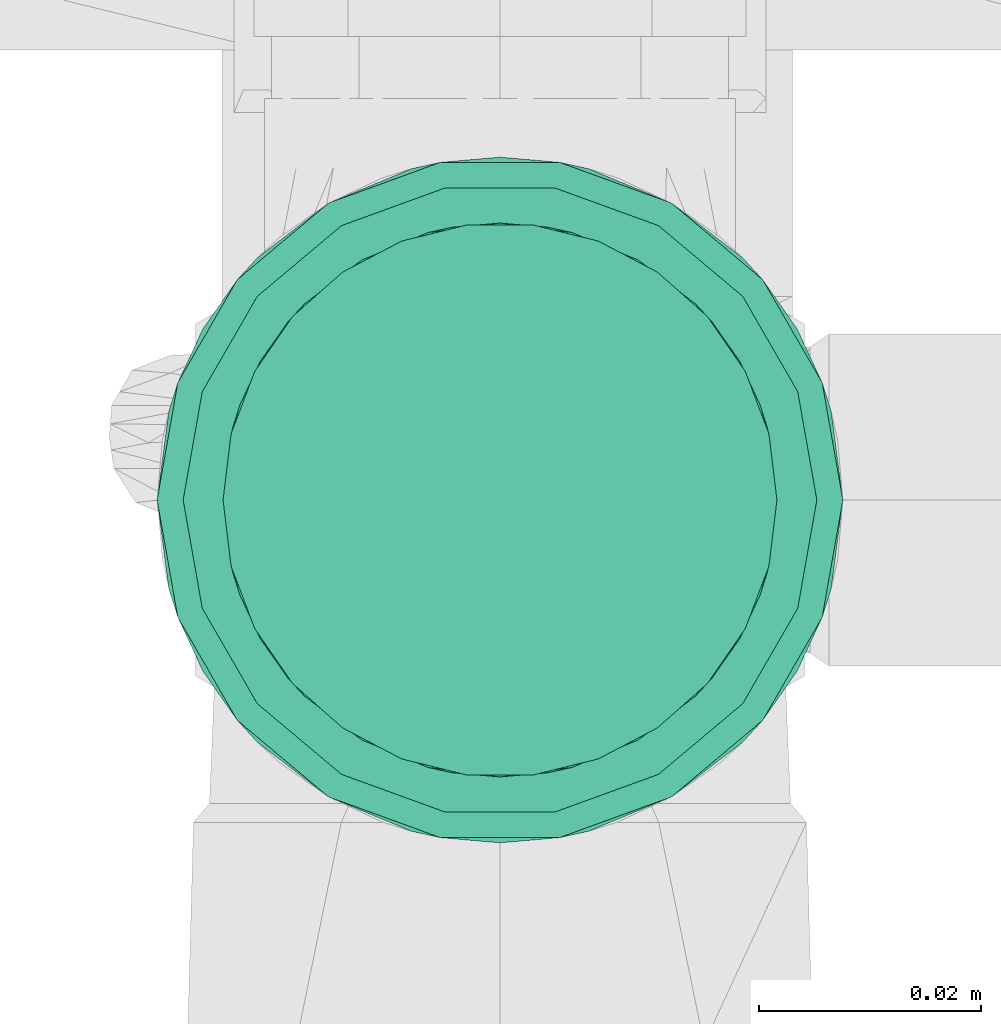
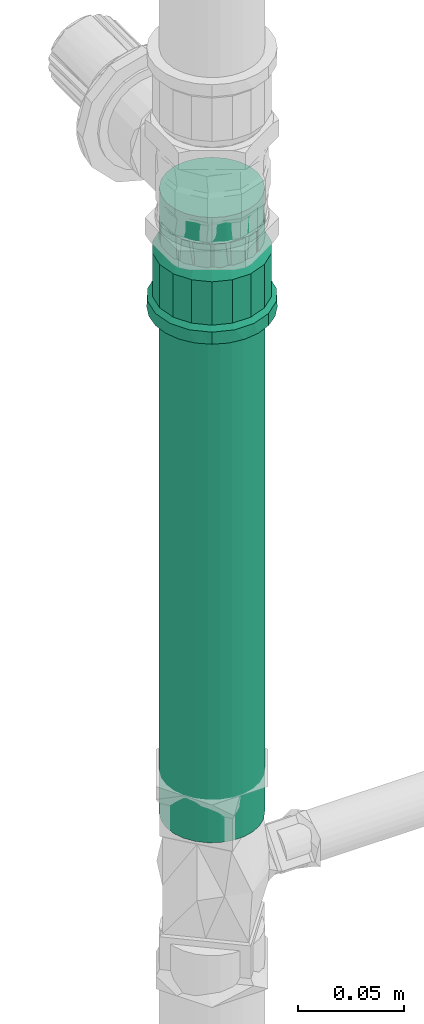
# One storey, part 240 of 589: 1 flow fitting, 1 flow segment.
"""IFC2X3 building model written with IfcOpenShell, lengths in millimetres."""

from ifc_helpers import new_model, entity, si_unit, converted_unit, derived_unit, direction, frame, frame_2d, origin, place, context, subcontext, project, spatial, circle, extrude, faceted_brep, source, transform, mapped, material, type_object, type_shapes, element, save


model = new_model("IFC2X3")

# Units and contexts
model_context = context("Model", 3, precision=0.01, world=origin(), true_north=direction((6.123031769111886e-17, 1.0)))
body_context = subcontext(model_context, "Body", "Model", "MODEL_VIEW")
ifc_project = project(units=[si_unit("LENGTHUNIT", "METRE", prefix="MILLI"), si_unit("AREAUNIT", "SQUARE_METRE"), si_unit("VOLUMEUNIT", "CUBIC_METRE"), converted_unit("PLANEANGLEUNIT", "DEGREE", entity("IfcRatioMeasure", 0.017453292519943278), si_unit("PLANEANGLEUNIT", "RADIAN"), dimensions=[0, 0, 0, 0, 0, 0, 0]), si_unit("MASSUNIT", "GRAM", prefix="KILO"), derived_unit("MASSDENSITYUNIT", [(si_unit("MASSUNIT", "GRAM", prefix="KILO"), 1), (si_unit("LENGTHUNIT", "METRE"), -3)]), derived_unit("IONCONCENTRATIONUNIT", [(si_unit("MASSUNIT", "GRAM", prefix="KILO"), 1), (si_unit("LENGTHUNIT", "METRE"), -3)]), derived_unit("MOMENTOFINERTIAUNIT", [(si_unit("LENGTHUNIT", "METRE"), 4)]), si_unit("TIMEUNIT", "SECOND"), si_unit("FREQUENCYUNIT", "HERTZ"), si_unit("THERMODYNAMICTEMPERATUREUNIT", "DEGREE_CELSIUS"), derived_unit("THERMALTRANSMITTANCEUNIT", [(si_unit("MASSUNIT", "GRAM", prefix="KILO"), 1), (si_unit("THERMODYNAMICTEMPERATUREUNIT", "KELVIN"), -1), (si_unit("TIMEUNIT", "SECOND"), -3)]), derived_unit("THERMALCONDUCTANCEUNIT", [(si_unit("MASSUNIT", "GRAM", prefix="KILO"), 1), (si_unit("THERMODYNAMICTEMPERATUREUNIT", "KELVIN"), -1), (si_unit("TIMEUNIT", "SECOND"), -3), (si_unit("LENGTHUNIT", "METRE"), 1)]), derived_unit("VOLUMETRICFLOWRATEUNIT", [(si_unit("LENGTHUNIT", "METRE"), 3), (si_unit("TIMEUNIT", "SECOND"), -1)]), derived_unit("MASSFLOWRATEUNIT", [(si_unit("MASSUNIT", "GRAM", prefix="KILO"), 1), (si_unit("TIMEUNIT", "SECOND"), -1)]), derived_unit("ROTATIONALFREQUENCYUNIT", [(si_unit("TIMEUNIT", "SECOND"), -1)]), si_unit("ELECTRICCURRENTUNIT", "AMPERE"), si_unit("ELECTRICVOLTAGEUNIT", "VOLT"), si_unit("POWERUNIT", "WATT"), si_unit("FORCEUNIT", "NEWTON", prefix="KILO"), si_unit("ILLUMINANCEUNIT", "LUX"), si_unit("LUMINOUSFLUXUNIT", "LUMEN"), si_unit("LUMINOUSINTENSITYUNIT", "CANDELA"), derived_unit("USERDEFINED", [(si_unit("MASSUNIT", "GRAM", prefix="KILO"), -1), (si_unit("LENGTHUNIT", "METRE"), -2), (si_unit("TIMEUNIT", "SECOND"), 3), (si_unit("LUMINOUSFLUXUNIT", "LUMEN"), 1)]), derived_unit("USERDEFINED", [(si_unit("MASSUNIT", "GRAM", prefix="KILO"), 1), (si_unit("TIMEUNIT", "SECOND"), -3), (si_unit("LENGTHUNIT", "METRE"), 3), (si_unit("ELECTRICCURRENTUNIT", "AMPERE"), -2)]), derived_unit("SOUNDPOWERUNIT", [(si_unit("MASSUNIT", "GRAM", prefix="KILO"), 1), (si_unit("TIMEUNIT", "SECOND"), -3), (si_unit("LENGTHUNIT", "METRE"), 2)]), derived_unit("SOUNDPRESSUREUNIT", [(si_unit("MASSUNIT", "GRAM", prefix="KILO"), 1), (si_unit("LENGTHUNIT", "METRE"), -1), (si_unit("TIMEUNIT", "SECOND"), -2)]), derived_unit("LINEARVELOCITYUNIT", [(si_unit("LENGTHUNIT", "METRE"), 1), (si_unit("TIMEUNIT", "SECOND"), -1)]), si_unit("PRESSUREUNIT", "PASCAL"), derived_unit("USERDEFINED", [(si_unit("MASSUNIT", "GRAM", prefix="KILO"), 1), (si_unit("LENGTHUNIT", "METRE"), -2), (si_unit("TIMEUNIT", "SECOND"), -2)]), derived_unit("LINEARFORCEUNIT", [(si_unit("MASSUNIT", "GRAM", prefix="KILO"), 1), (si_unit("TIMEUNIT", "SECOND"), -2)]), derived_unit("PLANARFORCEUNIT", [(si_unit("MASSUNIT", "GRAM", prefix="KILO"), 1), (si_unit("LENGTHUNIT", "METRE"), -1), (si_unit("TIMEUNIT", "SECOND"), -2)]), derived_unit("SPECIFICHEATCAPACITYUNIT", [(si_unit("THERMODYNAMICTEMPERATUREUNIT", "KELVIN"), -1), (si_unit("LENGTHUNIT", "METRE"), 2), (si_unit("TIMEUNIT", "SECOND"), -2)]), derived_unit("HEATINGVALUEUNIT", [(si_unit("LENGTHUNIT", "METRE"), 2), (si_unit("TIMEUNIT", "SECOND"), -2)]), derived_unit("VAPORPERMEABILITYUNIT", [(si_unit("LENGTHUNIT", "METRE"), -1), (si_unit("TIMEUNIT", "SECOND"), 1)]), derived_unit("DYNAMICVISCOSITYUNIT", [(si_unit("MASSUNIT", "GRAM", prefix="KILO"), 1), (si_unit("TIMEUNIT", "SECOND"), -1), (si_unit("LENGTHUNIT", "METRE"), -1)]), derived_unit("THERMALEXPANSIONCOEFFICIENTUNIT", [(si_unit("THERMODYNAMICTEMPERATUREUNIT", "KELVIN"), -1)]), derived_unit("MODULUSOFELASTICITYUNIT", [(si_unit("MASSUNIT", "GRAM", prefix="KILO"), 1), (si_unit("LENGTHUNIT", "METRE"), -1), (si_unit("TIMEUNIT", "SECOND"), -2)]), derived_unit("ISOTHERMALMOISTURECAPACITYUNIT", [(si_unit("LENGTHUNIT", "METRE"), 3), (si_unit("MASSUNIT", "GRAM", prefix="KILO"), -1)]), derived_unit("MOISTUREDIFFUSIVITYUNIT", [(si_unit("TIMEUNIT", "SECOND"), -1), (si_unit("LENGTHUNIT", "METRE"), 2)])], contexts=[model_context])

# Site, building, storey
site_placement = place(None, origin())
site = spatial("IfcSite", under=ifc_project, at=site_placement, Name="Default", CompositionType="ELEMENT")
building_placement = place(site_placement, origin())
building = spatial("IfcBuilding", under=site, at=building_placement, CompositionType="ELEMENT")
storey_placement = place(building_placement, frame((0.0, 0.0, 100.0)))
storey = spatial("IfcBuildingStorey", under=building, at=storey_placement, Name="TÉRREO", CompositionType="ELEMENT", Elevation=100.0)

# Flow segment
pipe_segment_type = type_object("IfcPipeSegmentType", Name="Tipos de tubos:PVC Marrom Soldável", PredefinedType="NOTDEFINED")
flow_segment_placement = place(storey_placement, origin())
element("IfcFlowSegment", 1, at=flow_segment_placement, inside=storey, type_object=pipe_segment_type, Name="Tipos de tubos:PVC Marrom Soldável", ObjectType="Tipos de tubos:PVC Marrom Soldável", context=body_context, shape_type="SweptSolid", body=[
    extrude(circle(Radius=25.0, at=frame_2d((6.767919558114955e-14, 0.0), x_axis=(1.0, 0.0))), frame((-87.78535366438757, 3119.2147625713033, 1832.6), z_axis=(0.0, 0.0, 1.0), x_axis=(-1.0, 0.0, 0.0)), (0.0, 0.0, 1.0), 345.90000000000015),
])

# Flow fitting
ifc_material = material(Name="PVC Marrom")
pipe_fitting_type = type_object("IfcPipeFittingType", Name="PVC Marrom Soldável_Adaptador Curto com Bolsa e Rosca Aninhado_Rodrigo MEP:Adaptador", PredefinedType="NOTDEFINED", material=ifc_material)
shared_shape = source(origin(), body_context, "Body", "Brep", [
    faceted_brep([(0.0, -15.475000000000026, -26.803486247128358), (0.0, -21.884954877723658, -21.88495487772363), (0.0, -12.499999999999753, -21.65063509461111), (0.0, -6.470476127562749, -24.14814565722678), (0.0, -8.010449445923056, -29.895404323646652), (0.0, -17.677669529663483, -17.6776695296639), (0.0, -26.803486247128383, -15.474999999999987), (0.0, -21.650635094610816, -12.500000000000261), (0.0, -24.148145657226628, -6.470476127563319), (0.0, -29.895404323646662, -8.01044944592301), (0.0, -25.0, 0.0), (0.0, -30.95, 0.0), (0.0, -24.14814565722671, 6.470476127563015), (0.0, -29.895404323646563, 8.010449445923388), (0.0, -21.65063509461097, 12.499999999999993), (0.0, -26.80348624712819, 15.475000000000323), (0.0, -17.6776695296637, 17.677669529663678), (0.0, -21.884954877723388, 21.884954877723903), (0.0, -12.500000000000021, 21.65063509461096), (0.0, -15.474999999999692, 26.803486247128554), (0.0, -6.4704761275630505, 24.1481456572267), (0.0, -8.010449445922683, 29.89540432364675), (0.0, 0.0, 25.0), (0.0, 0.0, 30.95), (0.0, 6.4704761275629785, 24.14814565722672), (0.0, 8.010449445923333, 29.895404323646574), (0.0, 12.49999999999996, 21.650635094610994), (0.0, 15.475000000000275, 26.803486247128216), (0.0, 17.677669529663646, 17.67766952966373), (0.0, 21.884954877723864, 21.884954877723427), (0.0, 21.65063509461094, 12.500000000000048), (0.0, 26.803486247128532, 15.474999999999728), (0.0, 29.89540432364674, 8.010449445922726), (0.0, 24.14814565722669, 6.4704761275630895), (0.0, 30.95, 0.0), (0.0, 25.0, 0.0), (0.0, 29.895404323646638, -8.010449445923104), (0.0, 24.148145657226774, -6.470476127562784), (0.0, 26.803486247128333, -15.475000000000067), (0.0, 21.6506350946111, -12.499999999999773), (0.0, 21.884954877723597, -21.884954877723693), (0.0, 17.677669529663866, -17.67766952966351), (0.0, 15.474999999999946, -26.803486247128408), (0.0, 12.500000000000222, -21.650635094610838), (0.0, 8.010449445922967, -29.895404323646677), (0.0, 6.470476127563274, -24.148145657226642), (0.0, 0.0, -30.95), (0.0, 0.0, -25.0), (7.0, 29.083191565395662, 10.586334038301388), (7.0, 29.880651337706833, 6.064083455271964), (7.0, 30.016595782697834, 5.29316701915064), (7.0, 19.590362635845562, 23.350189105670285), (7.0, 23.70796650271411, 19.895598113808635), (7.0, 26.395579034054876, 15.24096607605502), (7.0, 10.421885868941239, 28.6425895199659), (7.0, 5.3710129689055, 30.480398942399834), (7.0, 30.95, 0.0), (7.0, 15.472758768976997, 26.804780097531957), (7.0, -15.479482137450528, 26.80089798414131), (7.0, -10.42907040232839, 28.639974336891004), (7.0, -5.37865866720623, 30.479050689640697), (7.0, -23.712956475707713, 19.889650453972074), (7.0, -19.596219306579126, 23.345274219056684), (7.0, -30.95, 0.0), (7.0, -29.08584618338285, 10.57903832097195), (7.0, -26.39940132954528, 15.234344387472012), (7.0, -0.0038228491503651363, 30.47972481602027), (7.0, -29.08584618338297, -10.579038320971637), (7.0, -19.596219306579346, -23.3452742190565), (7.0, -23.71295647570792, -19.88965045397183), (7.0, -26.39940132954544, -15.234344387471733), (7.0, -10.429070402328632, -28.639974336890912), (7.0, -5.378658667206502, -30.47905068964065), (7.0, -15.47948213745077, -26.800897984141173), (7.0, 30.0165957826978, -5.2931670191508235), (7.0, 15.472758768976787, -26.804780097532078), (7.0, 10.421885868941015, -28.642589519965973), (7.0, 5.3710129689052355, -30.480398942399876), (7.0, 23.707966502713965, -19.895598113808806), (7.0, 19.590362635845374, -23.350189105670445), (7.0, 29.88065131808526, -6.064083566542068), (7.0, 29.083191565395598, -10.58633403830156), (7.0, 26.395579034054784, -15.240966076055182), (7.0, -0.003822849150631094, -30.479724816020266), (34.4499999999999, 26.875116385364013, 9.782030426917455), (9.400000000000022, 27.737468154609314, 4.8912625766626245), (9.400000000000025, 26.87493630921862, 9.782525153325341), (9.400000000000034, 14.297928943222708, 24.769522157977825), (34.4499999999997, 14.299296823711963, 24.768732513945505), (9.40000000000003, 18.102887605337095, 21.577234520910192), (34.4499999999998, 21.908523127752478, 18.384140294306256), (34.44999999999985, 24.391819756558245, 14.083085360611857), (9.400000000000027, 24.391391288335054, 14.083736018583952), (9.400000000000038, 9.63056335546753, 26.467788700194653), (9.400000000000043, 4.963197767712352, 28.16605524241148), (34.44999999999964, 4.965271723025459, 28.165689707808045), (9.400000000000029, 21.907846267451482, 18.384946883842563), (34.44999999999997, 27.796398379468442, 4.557325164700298), (9.40000000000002, 28.600000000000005, 0.0), (34.44999999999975, 18.103909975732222, 21.57643640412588), (34.44999999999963, -0.0011994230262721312, 28.165478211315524), (9.400000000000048, -0.0035325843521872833, 28.165432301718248), (34.44999999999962, -4.967670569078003, 28.165266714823), (34.44999999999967, 9.632284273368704, 26.46721111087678), (9.400000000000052, -4.970262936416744, 28.164809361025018), (9.40000000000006, -14.304141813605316, 24.765934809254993), (34.449999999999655, -14.301406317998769, 24.76751455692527), (9.400000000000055, -9.63720237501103, 26.465372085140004), (34.449999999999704, -18.105747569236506, 21.574894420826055), (34.44999999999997, 27.73755819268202, 4.891015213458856), (9.400000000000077, -26.87738936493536, 9.77578339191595), (34.450000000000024, -28.600000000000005, 0.0), (34.449999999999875, -26.875949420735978, 9.779741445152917), (9.400000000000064, -18.108299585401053, 21.57269281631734), (9.40000000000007, -21.91245735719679, 18.379450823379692), (34.449999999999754, -21.910088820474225, 18.38227428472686), (34.44999999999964, -9.634538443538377, 26.466390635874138), (9.400000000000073, -24.394923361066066, 14.077617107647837), (34.450000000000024, 28.600000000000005, 0.0), (9.40000000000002, -28.600000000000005, 0.0), (34.44999999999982, -24.3930191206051, 14.081007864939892), (34.45000000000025, -26.87594942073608, -9.77974144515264), (9.40000000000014, -26.87738936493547, -9.77578339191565), (34.45000000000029, 18.103909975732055, -21.576436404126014), (34.45000000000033, 14.299296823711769, -24.76873251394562), (9.400000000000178, 18.10288760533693, -21.577234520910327), (34.450000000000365, -21.910088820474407, -18.38227428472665), (9.400000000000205, -21.912457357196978, -18.37945082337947), (9.400000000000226, -18.108299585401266, -21.57269281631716), (34.45000000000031, -24.393019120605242, -14.081007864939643), (9.400000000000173, -24.394923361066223, -14.077617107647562), (9.40000000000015, 21.907846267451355, -18.384946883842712), (9.40000000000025, -0.0035325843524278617, -28.165432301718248), (9.400000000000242, 4.963197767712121, -28.166055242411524), (34.45000000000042, -0.0011994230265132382, -28.165478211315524), (34.45000000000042, -14.301406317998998, -24.76751455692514), (9.400000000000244, -14.304141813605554, -24.765934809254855), (9.40000000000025, -9.637202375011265, -26.46537208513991), (34.45000000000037, 9.632284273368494, -26.467211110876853), (34.45000000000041, 4.965271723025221, -28.165689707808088), (9.400000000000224, 9.63056335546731, -26.467788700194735), (9.400000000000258, -4.970262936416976, -28.164809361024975), (34.45000000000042, -9.634538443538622, -26.46639063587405), (34.45000000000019, 24.391819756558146, -14.083085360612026), (9.40000000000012, 24.391391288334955, -14.083736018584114), (9.400000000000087, 26.874936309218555, -9.782525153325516), (34.450000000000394, -18.1057475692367, -21.574894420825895), (34.450000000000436, -4.967670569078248, -28.16526671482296), (34.45000000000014, 26.875116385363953, -9.782030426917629), (34.450000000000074, 27.796398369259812, -4.557325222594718), (9.400000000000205, 14.297928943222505, -24.769522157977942), (9.400000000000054, 27.737468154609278, -4.8912625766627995), (34.450000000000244, 21.908523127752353, -18.38414029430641), (34.45000000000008, 27.737558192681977, -4.891015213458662), (69.0, 0.0, -25.0), (69.0, 6.4704761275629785, -24.14814565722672), (69.0, 12.49999999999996, -21.650635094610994), (69.0, 17.677669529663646, -17.67766952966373), (69.0, 21.650635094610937, -12.500000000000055), (69.0, 24.14814565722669, -6.4704761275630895), (69.0, 25.0, 0.0), (69.0, 24.148145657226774, 6.470476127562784), (69.0, 21.650635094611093, 12.499999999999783), (69.0, 17.67766952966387, 17.677669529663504), (69.0, 12.500000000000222, 21.650635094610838), (69.0, 6.470476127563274, 24.148145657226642), (69.0, 0.0, 25.0), (69.0, -6.470476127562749, 24.14814565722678), (69.0, -12.499999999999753, 21.65063509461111), (69.0, -17.677669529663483, 17.6776695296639), (69.0, -21.650635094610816, 12.500000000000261), (69.0, -24.148145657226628, 6.470476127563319), (69.0, -25.0, 0.0), (69.0, -24.14814565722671, -6.470476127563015), (69.0, -21.650635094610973, -12.499999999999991), (69.0, -17.6776695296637, -17.677669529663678), (69.0, -12.500000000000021, -21.65063509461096), (69.0, -6.4704761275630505, -24.1481456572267), (40.499999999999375, 8.41832461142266, 23.136178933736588), (40.49999999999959, 19.1502152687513, 16.070757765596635), (40.49999999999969, 21.321146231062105, 12.310958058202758), (40.49999999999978, 23.492077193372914, 8.551158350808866), (40.49999999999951, 15.824202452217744, 18.861218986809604), (40.49999999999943, 12.498189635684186, 21.651680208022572), (40.49999999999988, 24.246038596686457, 4.275579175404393), (40.49999999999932, 4.3384595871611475, 24.620677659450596), (40.499999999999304, -0.003087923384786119, 24.620133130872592), (40.499999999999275, -4.344635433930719, 24.61958860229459), (40.49999999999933, -12.503620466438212, 21.648544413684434), (40.49999999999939, -15.828933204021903, 18.85724896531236), (40.49999999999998, 25.0, 0.0), (40.49999999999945, -19.154245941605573, 16.065953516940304), (40.49999999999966, -23.494221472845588, 8.545265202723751), (40.499999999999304, -8.424127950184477, 23.13406650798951), (40.49999999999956, -21.324233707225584, 12.305609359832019), (40.49999999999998, -25.0, 0.0), (40.500000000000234, -19.15424594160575, -16.065953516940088), (40.50000000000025, 12.498189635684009, -21.65168020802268), (40.500000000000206, 15.824202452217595, -18.861218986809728), (40.500000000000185, -21.32423370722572, -12.305609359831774), (40.50000000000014, -23.494221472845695, -8.545265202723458), (40.50000000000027, -15.82893320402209, -18.8572489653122), (40.5000000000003, -12.503620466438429, -21.64854441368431), (40.50000000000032, -8.42412795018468, -23.13406650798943), (40.50000000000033, -4.344635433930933, -24.619588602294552), (40.50000000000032, -0.00308792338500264, -24.620133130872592), (40.5000000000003, 4.3384595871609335, -24.62067765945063), (40.50000000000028, 8.41832461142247, -23.136178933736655), (40.50000000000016, 19.150215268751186, -16.070757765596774), (40.50000000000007, 23.49207719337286, -8.551158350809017), (40.500000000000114, 21.321146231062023, -12.31095805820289), (40.50000000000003, 24.246038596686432, -4.275579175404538), (9.40000000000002, 24.14814565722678, -6.470476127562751), (34.450000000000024, 24.14814565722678, -6.470476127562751), (34.450000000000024, 25.0, 0.0), (9.40000000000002, 25.0, 0.0), (7.0, 25.0, 0.0), (7.0, 24.14814565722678, -6.470476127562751), (9.40000000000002, 21.650635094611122, -12.499999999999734), (34.450000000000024, 21.650635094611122, -12.499999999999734), (7.0, 21.650635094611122, -12.499999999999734), (34.450000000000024, 12.500000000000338, -21.65063509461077), (34.450000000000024, 17.677669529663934, -17.677669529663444), (9.40000000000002, 17.677669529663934, -17.677669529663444), (7.0, 17.677669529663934, -17.677669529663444), (7.0, 12.500000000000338, -21.65063509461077), (9.40000000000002, 12.500000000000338, -21.65063509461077), (34.450000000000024, 6.470476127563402, -24.148145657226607), (7.0, 6.470476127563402, -24.148145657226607), (9.40000000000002, 6.470476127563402, -24.148145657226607), (34.450000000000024, 0.0, -25.0), (7.0, 0.0, -25.0), (9.40000000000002, 0.0, -25.0), (9.40000000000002, -6.470476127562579, -24.148145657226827), (34.450000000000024, -6.470476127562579, -24.148145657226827), (7.0, -6.470476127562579, -24.148145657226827), (9.40000000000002, -12.49999999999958, -21.65063509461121), (34.450000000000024, -12.49999999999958, -21.65063509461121), (7.0, -12.49999999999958, -21.65063509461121), (9.40000000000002, -24.148145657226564, -6.470476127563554), (7.0, -24.14814565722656, -6.470476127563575), (7.0, -25.0, 0.0), (9.40000000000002, -25.0, 0.0), (34.450000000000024, -25.0, 0.0), (34.450000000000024, -24.148145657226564, -6.470476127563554), (9.40000000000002, -17.677669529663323, -17.677669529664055), (34.450000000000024, -17.677669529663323, -17.677669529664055), (7.0, -17.677669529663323, -17.677669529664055), (9.40000000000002, -21.650635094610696, -12.500000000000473), (34.450000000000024, -21.650635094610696, -12.500000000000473), (7.0, -21.650635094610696, -12.500000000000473), (9.40000000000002, -24.148145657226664, 6.470476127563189), (34.450000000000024, -24.148145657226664, 6.470476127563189), (7.0, -24.148145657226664, 6.470476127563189), (9.40000000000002, -21.65063509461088, 12.50000000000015), (34.450000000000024, -21.65063509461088, 12.50000000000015), (7.0, -21.65063509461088, 12.50000000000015), (34.450000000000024, -12.49999999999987, 21.650635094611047), (34.450000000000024, -17.677669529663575, 17.677669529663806), (9.40000000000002, -17.677669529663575, 17.677669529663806), (7.0, -17.677669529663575, 17.677669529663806), (7.0, -12.49999999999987, 21.650635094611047), (9.40000000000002, -12.49999999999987, 21.650635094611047), (34.450000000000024, -6.470476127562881, 24.14814565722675), (7.0, -6.470476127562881, 24.14814565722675), (9.40000000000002, -6.470476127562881, 24.14814565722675), (34.450000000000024, 0.0, 25.0), (7.0, 0.0, 25.0), (9.40000000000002, 0.0, 25.0), (34.450000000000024, 12.50000000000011, 21.650635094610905), (9.40000000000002, 12.50000000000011, 21.650635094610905), (7.0, 12.50000000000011, 21.650635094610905), (7.0, 17.677669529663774, 17.677669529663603), (9.40000000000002, 17.677669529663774, 17.677669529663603), (34.450000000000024, 17.677669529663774, 17.677669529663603), (34.450000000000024, 21.650635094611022, 12.499999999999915), (9.40000000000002, 21.650635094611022, 12.499999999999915), (7.0, 21.650635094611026, 12.499999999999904), (7.0, 24.14814565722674, 6.470476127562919), (9.40000000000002, 24.14814565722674, 6.470476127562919), (34.450000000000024, 24.14814565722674, 6.470476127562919), (34.450000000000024, 6.470476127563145, 24.148145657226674), (9.40000000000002, 6.470476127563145, 24.148145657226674), (7.0, 6.470476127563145, 24.148145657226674)], [[[0, 1, 2]], [[0, 2, 3]], [[3, 4, 0]], [[2, 1, 5]], [[6, 5, 1]], [[7, 5, 6]], [[8, 7, 6]], [[8, 6, 9]], [[8, 9, 10]], [[10, 9, 11]], [[12, 10, 11]], [[12, 11, 13]], [[14, 12, 13]], [[14, 13, 15]], [[16, 14, 15]], [[15, 17, 16]], [[17, 18, 16]], [[18, 17, 19]], [[18, 19, 20]], [[21, 20, 19]], [[20, 21, 22]], [[22, 21, 23]], [[23, 24, 22]], [[24, 23, 25]], [[24, 25, 26]], [[27, 26, 25]], [[27, 28, 26]], [[27, 29, 28]], [[30, 28, 29]], [[31, 30, 29]], [[32, 30, 31]], [[33, 30, 32]], [[33, 32, 34]], [[34, 35, 33]], [[36, 35, 34]], [[36, 37, 35]], [[37, 36, 38]], [[39, 37, 38]], [[39, 38, 40]], [[39, 40, 41]], [[40, 42, 41]], [[41, 42, 43]], [[43, 42, 44]], [[44, 45, 43]], [[46, 45, 44]], [[4, 47, 46]], [[46, 47, 45]], [[4, 3, 47]], [[32, 48, 49, 50]], [[51, 52, 29]], [[53, 48, 31, 52]], [[54, 25, 55]], [[48, 32, 31]], [[34, 50, 56]], [[27, 57, 51]], [[29, 27, 51]], [[29, 52, 31]], [[19, 58, 59]], [[21, 19, 59]], [[54, 57, 27]], [[25, 54, 27]], [[55, 25, 23]], [[32, 50, 34]], [[59, 60, 21]], [[61, 62, 17]], [[63, 64, 13]], [[65, 61, 15, 64]], [[11, 63, 13]], [[17, 62, 19]], [[66, 55, 23, 60]], [[21, 60, 23]], [[61, 17, 15]], [[19, 62, 58]], [[13, 64, 15]], [[67, 63, 9]], [[68, 69, 1]], [[70, 67, 6, 69]], [[71, 4, 72]], [[67, 9, 6]], [[63, 11, 9]], [[4, 71, 0]], [[0, 73, 68]], [[1, 69, 6]], [[36, 34, 74]], [[42, 75, 76]], [[71, 73, 0]], [[44, 42, 76]], [[72, 4, 46]], [[1, 0, 68]], [[76, 77, 44]], [[78, 79, 40]], [[36, 74, 80, 81]], [[82, 78, 38, 81]], [[36, 81, 38]], [[40, 79, 42]], [[83, 72, 46, 77]], [[44, 77, 46]], [[78, 40, 38]], [[42, 79, 75]], [[34, 56, 74]], [[84, 85, 86]], [[87, 88, 89]], [[90, 91, 92]], [[93, 94, 95]], [[92, 96, 90]], [[97, 98, 85]], [[96, 89, 99]], [[84, 86, 91]], [[100, 101, 102]], [[103, 93, 95]], [[93, 103, 87]], [[92, 91, 86]], [[101, 104, 102]], [[99, 89, 88]], [[105, 106, 107]], [[106, 105, 108]], [[85, 84, 109, 97]], [[95, 94, 100]], [[110, 111, 112]], [[113, 114, 115]], [[102, 104, 116]], [[112, 117, 110]], [[108, 113, 115]], [[107, 116, 104]], [[97, 118, 98]], [[108, 105, 113]], [[111, 110, 119]], [[90, 96, 99]], [[120, 114, 117]], [[120, 117, 112]], [[88, 87, 103]], [[94, 101, 100]], [[115, 114, 120]], [[116, 107, 106]], [[121, 111, 122]], [[123, 124, 125]], [[126, 127, 128]], [[129, 121, 130]], [[125, 131, 123]], [[121, 122, 130]], [[132, 133, 134]], [[135, 136, 137]], [[138, 139, 140]], [[122, 111, 119]], [[130, 127, 129]], [[137, 141, 142]], [[143, 144, 145]], [[146, 126, 128]], [[134, 147, 132]], [[142, 135, 137]], [[133, 139, 134]], [[139, 133, 140]], [[146, 136, 135]], [[148, 143, 145]], [[142, 141, 147]], [[98, 118, 149]], [[124, 150, 125]], [[138, 150, 124]], [[145, 151, 148]], [[128, 136, 146]], [[131, 144, 152]], [[151, 149, 153, 148]], [[143, 152, 144]], [[123, 131, 152]], [[132, 147, 141]], [[151, 98, 149]], [[129, 127, 126]], [[140, 150, 138]], [[154, 155, 156, 157, 158, 159, 160, 161, 162, 163, 164, 165, 166, 167, 168, 169, 170, 171, 172, 173, 174, 175, 176, 177]], [[165, 164, 178]], [[179, 163, 162]], [[180, 179, 162, 181]], [[164, 182, 183]], [[184, 181, 161]], [[178, 185, 165]], [[182, 163, 179]], [[186, 187, 166, 185]], [[165, 185, 166]], [[163, 182, 164]], [[168, 188, 189]], [[161, 160, 184]], [[160, 190, 184]], [[169, 191, 170]], [[161, 181, 162]], [[192, 171, 170]], [[167, 193, 168]], [[194, 192, 170, 191]], [[172, 171, 195]], [[187, 193, 167]], [[167, 166, 187]], [[168, 193, 188]], [[169, 168, 189]], [[189, 191, 169]], [[192, 195, 171]], [[164, 183, 178]], [[173, 172, 195]], [[196, 175, 174]], [[156, 197, 198]], [[199, 196, 174, 200]], [[176, 201, 202]], [[173, 195, 200]], [[203, 204, 177]], [[201, 175, 196]], [[205, 206, 154, 204]], [[157, 156, 198]], [[175, 201, 176]], [[176, 202, 203]], [[207, 197, 156]], [[173, 200, 174]], [[177, 176, 203]], [[157, 208, 158]], [[209, 159, 158]], [[210, 209, 158, 208]], [[211, 190, 160]], [[155, 154, 206]], [[155, 206, 207]], [[155, 207, 156]], [[198, 208, 157]], [[159, 209, 211]], [[159, 211, 160]], [[177, 204, 154]], [[212, 213, 214, 215, 216, 35, 37, 217]], [[218, 219, 213, 212, 217, 37, 39, 220]], [[221, 222, 223, 224, 41, 43, 225, 226]], [[218, 220, 39, 41, 224, 223, 222, 219]], [[227, 221, 226, 225, 43, 45, 228, 229]], [[230, 227, 229, 228, 45, 47, 231, 232]], [[233, 234, 230, 232, 231, 47, 3, 235]], [[236, 237, 234, 233, 235, 3, 2, 238]], [[239, 240, 8, 10, 241, 242, 243, 244]], [[245, 246, 237, 236, 238, 2, 5, 247]], [[248, 249, 246, 245, 247, 5, 7, 250]], [[248, 250, 7, 8, 240, 239, 244, 249]], [[251, 252, 243, 242, 241, 10, 12, 253]], [[254, 255, 252, 251, 253, 12, 14, 256]], [[257, 258, 259, 260, 16, 18, 261, 262]], [[254, 256, 14, 16, 260, 259, 258, 255]], [[263, 257, 262, 261, 18, 20, 264, 265]], [[266, 263, 265, 264, 20, 22, 267, 268]], [[269, 270, 271, 26, 28, 272, 273, 274]], [[275, 276, 277, 30, 33, 278, 279, 280]], [[273, 272, 28, 30, 277, 276, 275, 274]], [[280, 279, 278, 33, 35, 216, 215, 214]], [[281, 282, 283, 24, 26, 271, 270, 269]], [[282, 281, 266, 268, 267, 22, 24, 283]], [[122, 119, 63, 67]], [[151, 145, 81, 80, 74, 56, 98]], [[71, 72, 141, 137, 136, 73]], [[83, 77, 133, 132, 141, 72]], [[136, 128, 127, 69, 68, 73]], [[130, 122, 67, 70, 69, 127]], [[76, 75, 150, 140, 133, 77]], [[82, 81, 145, 144, 131, 78]], [[131, 125, 150, 75, 79, 78]], [[85, 98, 56, 50, 49, 48, 86]], [[92, 86, 48, 53, 52, 96]], [[89, 96, 52, 51, 57, 87]], [[57, 54, 55, 94, 93, 87]], [[66, 60, 104, 101, 94, 55]], [[58, 105, 107, 104, 60, 59]], [[63, 119, 110, 64]], [[61, 65, 64, 110, 117, 114]], [[58, 62, 61, 114, 113, 105]], [[221, 227, 230, 234, 237, 246, 249, 244, 243, 252, 255, 258, 257, 263, 266, 281, 269, 274, 275, 280, 214, 213, 219, 222]], [[190, 118, 97, 109]], [[109, 84, 184]], [[184, 84, 181]], [[178, 95, 185]], [[183, 88, 103]], [[179, 90, 99]], [[182, 88, 183]], [[181, 84, 91]], [[178, 183, 103]], [[103, 95, 178]], [[186, 185, 100]], [[91, 90, 180]], [[100, 102, 186]], [[180, 181, 91]], [[99, 88, 182]], [[182, 179, 99]], [[102, 187, 186]], [[189, 115, 191]], [[187, 102, 116]], [[180, 90, 179]], [[100, 185, 95]], [[193, 106, 188]], [[111, 195, 192]], [[191, 115, 120]], [[194, 112, 192]], [[188, 106, 108]], [[194, 191, 120]], [[120, 112, 194]], [[184, 190, 109]], [[108, 115, 189]], [[112, 111, 192]], [[189, 188, 108]], [[116, 106, 193]], [[193, 187, 116]], [[111, 200, 195]], [[203, 142, 204]], [[201, 146, 202]], [[199, 129, 196]], [[142, 147, 204]], [[146, 135, 202]], [[205, 134, 206]], [[129, 126, 196]], [[196, 126, 201]], [[121, 200, 111]], [[121, 129, 199]], [[201, 126, 146]], [[206, 139, 207]], [[204, 147, 205]], [[135, 142, 203]], [[200, 121, 199]], [[134, 139, 206]], [[202, 135, 203]], [[138, 124, 197]], [[207, 138, 197]], [[211, 153, 190]], [[210, 143, 209]], [[190, 153, 149, 118]], [[143, 148, 209]], [[198, 123, 208]], [[123, 152, 208]], [[208, 152, 210]], [[138, 207, 139]], [[198, 124, 123]], [[152, 143, 210]], [[148, 153, 211]], [[197, 124, 198]], [[147, 134, 205]], [[209, 148, 211]]]),
])
type_shapes(pipe_fitting_type, [shared_shape])
flow_fitting_placement = place(storey_placement, frame((-87.78535366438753, 3119.2147625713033, 2125.0), z_axis=(0.0, 1.0, 0.0), x_axis=(0.0, 0.0, 1.0)))
element("IfcFlowFitting", 2, at=flow_fitting_placement, inside=storey, type_object=pipe_fitting_type, material=ifc_material, Name="PVC Marrom Soldável_Adaptador Curto com Bolsa e Rosca Aninhado_Rodrigo MEP:Adaptador", ObjectType="PVC Marrom Soldável_Adaptador Curto com Bolsa e Rosca Aninhado_Rodrigo MEP:Adaptador", context=body_context, shape_type="MappedRepresentation", body=[
    mapped(shared_shape, transform((0.0, 0.0, 0.0), scale=1.0)),
])

save(model, "model.ifc")
